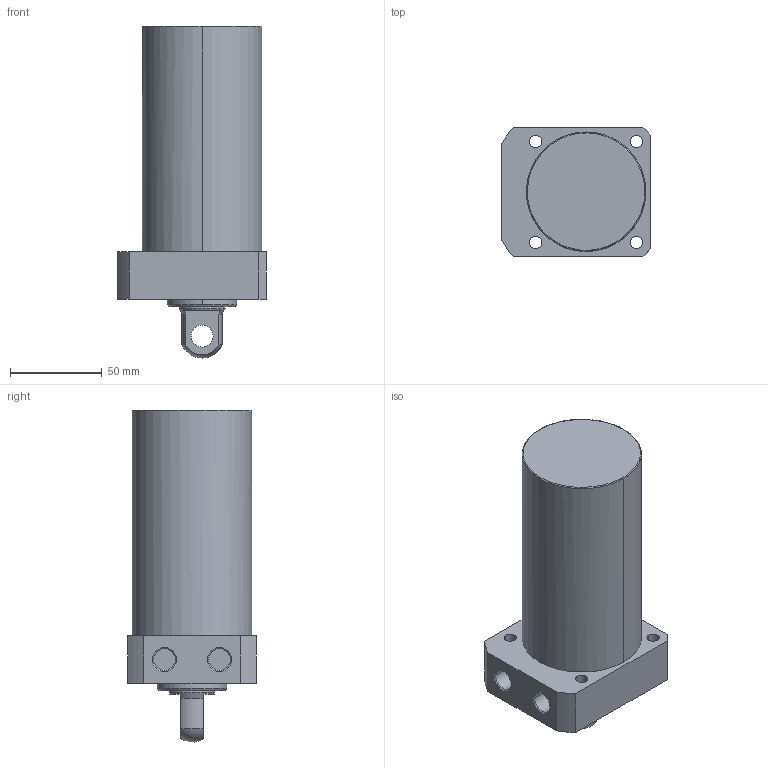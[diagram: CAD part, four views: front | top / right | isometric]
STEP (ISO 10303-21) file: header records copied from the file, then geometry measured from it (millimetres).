
FILE_DESCRIPTION((' '),'2;1');
FILE_NAME( 'TLLR-065CP-090.STEP.stp', '2025-10-24T16:35:03', (' '), ('--- Datakit www.datakit.com---'), ' Datakit CrossCadWare V2024.1 Dec 21 2023', 'Mastercam 2025', ' ');
FILE_SCHEMA(('AUTOMOTIVE_DESIGN { 1 0 10303 214 1 1 1 1 }'));
Length unit declared in the file: millimetre
Products named in the file (1): TLLR-065CP-090
Bounding box: 81 x 70 x 180.92 mm (x, y, z)
Volume: 555782.6 mm3; surface area: 49481 mm2
Topology: 1 solids, 1 shells, 57 faces, 164 edges, 116 vertices
Faces by surface type: cylinder 28, plane 18, cone 8, torus 2, sphere 1
Entity records: 2006 total; most frequent: DIRECTION 378, CARTESIAN_POINT 350, ORIENTED_EDGE 328, EDGE_CURVE 164, AXIS2_PLACEMENT_3D 160, VERTEX_POINT 116, CIRCLE 102, EDGE_LOOP 74
